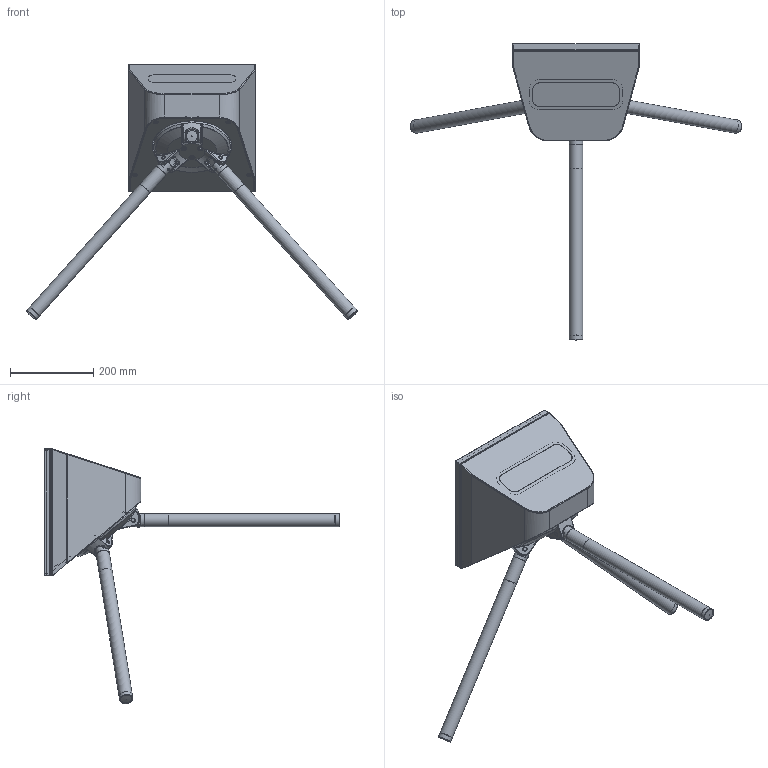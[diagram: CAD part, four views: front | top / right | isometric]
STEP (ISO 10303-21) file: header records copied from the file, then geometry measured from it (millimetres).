
FILE_DESCRIPTION(/* description */ ('Unknown'),/* implementation_level */ '2;1');
FILE_NAME(/* name */ 'TTR-10AK',/* time_stamp */ '2021-11-12T15:11:40+03:00',/* author */ ('Unknown'),/* organization */ ('Unknown'),/* preprocessor_version */ 'ST-DEVELOPER v16.7',/* originating_system */ 'Solid Edge',/* authorisation */ 'Unknown');
FILE_SCHEMA (('CONFIG_CONTROL_DESIGN','AUTOMOTIVE_DESIGN { 1 0 10303 214 3 1 1 }'));
Products named in the file (1): TTR-10AK
Bounding box: 798.42 x 713.01 x 614.81 mm (x, y, z)
Volume: 2010245.6 mm3; surface area: 1296685.4 mm2
Topology: 37 solids, 37 shells, 1976 faces, 5056 edges, 3139 vertices
Faces by surface type: cylinder 589, plane 588, bspline 463, cone 200, torus 89, sphere 47
Full cylindrical faces by diameter (mm): 0.35 x1, 3.2 x2, 3.242 x3, 3.3 x15, 4.019 x4, 4.917 x2, 5 x17, 6.466 x7, 6.647 x4, 8 x23, 8.376 x8, 8.4 x20, 9 x3, 10 x25, 10.5 x4, 12 x8, 13 x3, 14.5 x3, 16 x6, 18.25 x4, 20 x13, 24 x3, 27 x3, 28 x3, 28.5 x6, 32 x9, 185 x1, 191 x1
Entity records: 100963 total; most frequent: CARTESIAN_POINT 48154, ORIENTED_EDGE 9180, DIRECTION 7653, EDGE_CURVE 4590, VERTEX_POINT 3058, AXIS2_PLACEMENT_3D 3046, FACE_BOUND 2590, EDGE_LOOP 2572
